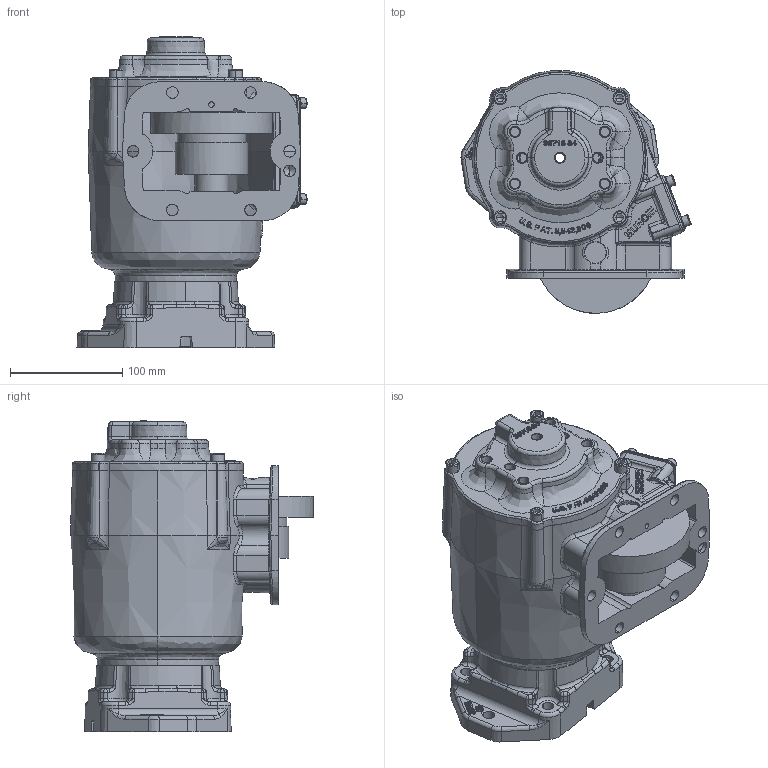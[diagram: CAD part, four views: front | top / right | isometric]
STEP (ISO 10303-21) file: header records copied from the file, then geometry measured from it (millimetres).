
FILE_DESCRIPTION (( 'STEP AP203' ), '1' );
FILE_NAME ('CS6S-A67XX-H1ZX.STEP', '2023-04-26T18:13:42', ( '' ), ( '' ), 'SwSTEP 2.0', 'SolidWorks 2021', '' );
FILE_SCHEMA (( 'CONFIG_CONTROL_DESIGN' ));
Length unit declared in the file: inch
Products named in the file (6): 11T37795; 10T21017; CS6S-XXXXX-X1XX; 14ta4818_Config1; 14T38343; CS6S-A67XX-H1ZX
Assembly tree (5 placements, depth 3):
  CS6S-A67XX-H1ZX
    CS6S-XXXXX-X1XX
    10T21017
    14ta4818_Config1
      14T38343
      11T37795
Bounding box: 205.38 x 216.75 x 278.14 mm (x, y, z)
Volume: 1798864.1 mm3; surface area: 452643.7 mm2
Topology: 13 solids, 14 shells, 2548 faces, 6620 edges, 4143 vertices
Faces by surface type: bspline 1015, plane 584, cylinder 491, cone 233, torus 187, sphere 38
Entity records: 172547 total; most frequent: CARTESIAN_POINT 118873, ORIENTED_EDGE 13032, DIRECTION 7478, EDGE_CURVE 6516, VERTEX_POINT 4116, B_SPLINE_CURVE_WITH_KNOTS 3126, EDGE_LOOP 2790, AXIS2_PLACEMENT_3D 2599
